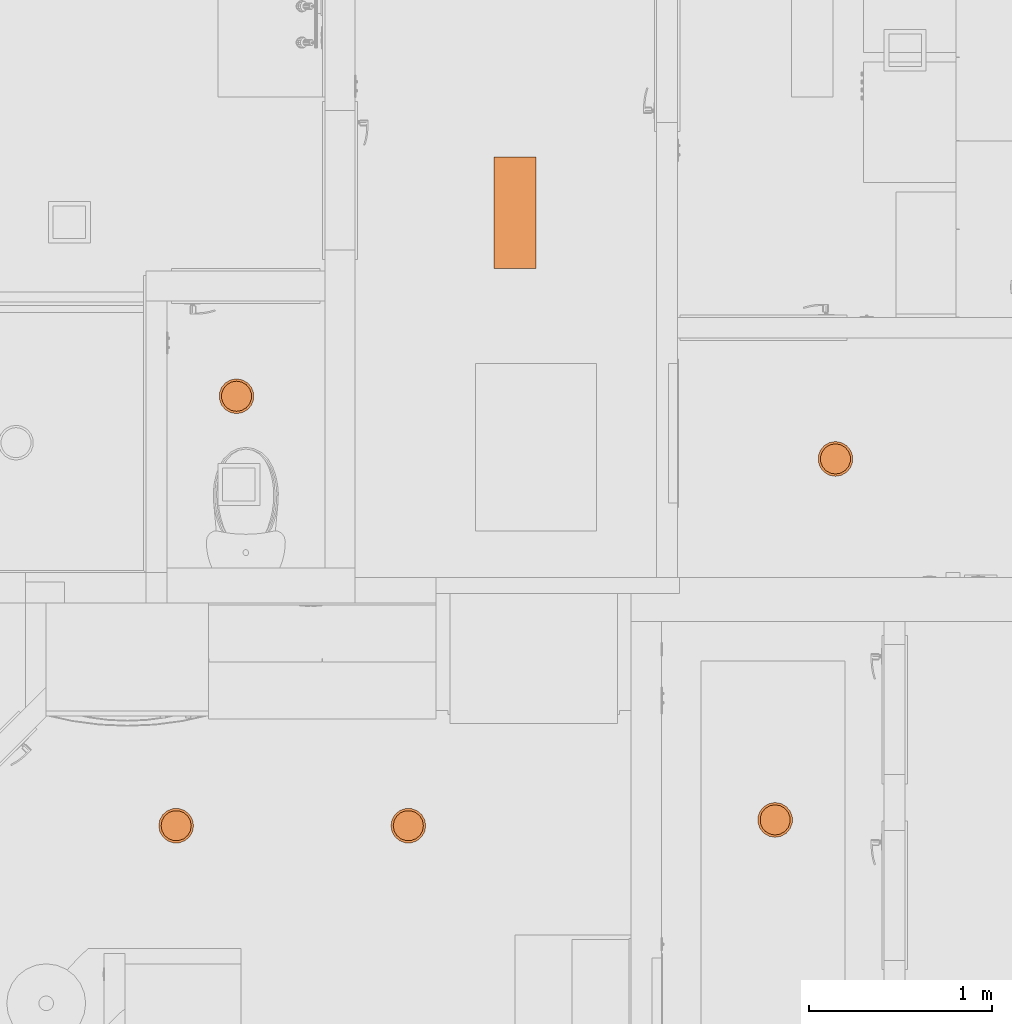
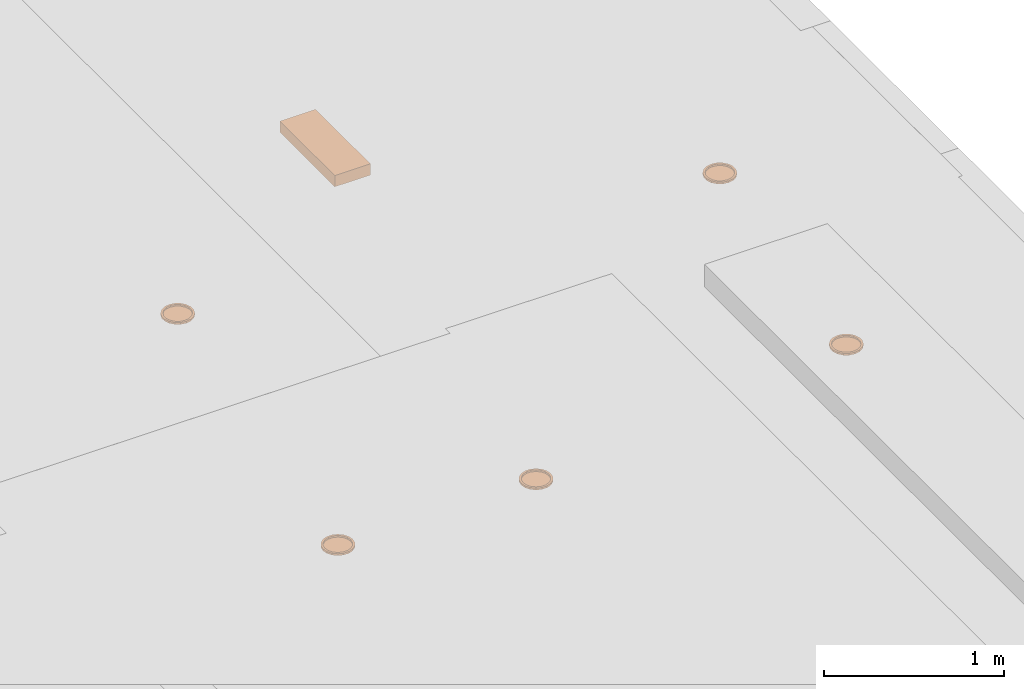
# One storey, part 75 of 103: 6 proxies.
"""IFC2X3 building model written with IfcOpenShell, lengths in inches."""

from ifc_helpers import new_model, entity, si_unit, converted_unit, derived_unit, money_unit, direction, frame, origin_with_axes, place, context, subcontext, project, spatial, open_shell, faceted_brep, surface_model, source, transform, mapped, type_object, element, save


model = new_model("IFC2X3")

# Units and contexts
model_context = context("Model", 3, precision=0.00039370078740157, world=origin_with_axes(), true_north=direction((0.0, 1.0)))
plan_context = context("Plan", 3, precision=0.00039370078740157, world=origin_with_axes(), true_north=direction((0.0, 1.0)))
body_context = subcontext(model_context, "Body", "Model", "MODEL_VIEW")
ifc_project = project(units=[converted_unit("LENGTHUNIT", "INCH", entity("IfcPositiveLengthMeasure", 0.0254), si_unit("LENGTHUNIT", "METRE"), dimensions=[1, 0, 0, 0, 0, 0, 0]), converted_unit("AREAUNIT", "SQUARE_FOOT", entity("IfcPositiveLengthMeasure", 0.09290304), si_unit("AREAUNIT", "SQUARE_METRE"), dimensions=[2, 0, 0, 0, 0, 0, 0]), si_unit("PLANEANGLEUNIT", "RADIAN"), si_unit("SOLIDANGLEUNIT", "STERADIAN"), money_unit("USD"), converted_unit("TIMEUNIT", "Year", entity("IfcTimeMeasure", 31557600.0), si_unit("TIMEUNIT", "SECOND"), dimensions=[0, 0, 1, 0, 0, 0, 0]), si_unit("MASSUNIT", "GRAM", prefix="KILO"), si_unit("THERMODYNAMICTEMPERATUREUNIT", "DEGREE_CELSIUS"), si_unit("LUMINOUSINTENSITYUNIT", "LUMEN"), si_unit("ENERGYUNIT", "JOULE", prefix="MEGA"), derived_unit("SPECIFICHEATCAPACITYUNIT", [(si_unit("ENERGYUNIT", "JOULE"), 1), (si_unit("MASSUNIT", "GRAM", prefix="KILO"), -1), (si_unit("THERMODYNAMICTEMPERATUREUNIT", "KELVIN"), -1)])], contexts=[model_context, plan_context])

# Site, building, storey
site_placement = place(None, origin_with_axes())
site = spatial("IfcSite", under=ifc_project, at=site_placement, Name="Site", CompositionType="ELEMENT")
building_placement = place(site_placement, origin_with_axes())
building = spatial("IfcBuilding", under=site, at=building_placement, Name="Building", CompositionType="ELEMENT")
storey_placement = place(building_placement, frame((0.0, 0.0, 127.9999999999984), z_axis=(0.0, 0.0, 1.0), x_axis=(1.0, 0.0, 0.0)))
storey = spatial("IfcBuildingStorey", under=building, at=storey_placement, Name="Second Floor", CompositionType="ELEMENT", Elevation=128.0)

# Proxies
building_element_proxy_type_1 = type_object("IfcBuildingElementProxyType", Name="Recessed Spot", PredefinedType="NOTDEFINED")
shared_shape_1 = source(origin_with_axes(), body_context, "Body", "SurfaceModel", [
    faceted_brep([(3.749999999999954, 0.0, -0.4999999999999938), (3.523847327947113, 1.282575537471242, -0.4999999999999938), (3.523847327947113, 1.282575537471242, 0.0), (3.749999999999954, 0.0, 0.0), (3.523847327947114, -1.282575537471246, -0.4999999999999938), (2.872666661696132, -2.410453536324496, -0.4999999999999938), (1.874999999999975, -3.247595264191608, -0.4999999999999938), (0.6511806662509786, -3.693029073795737, -0.4999999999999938), (-0.6511806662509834, -3.693029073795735, -0.4999999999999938), (-1.87499999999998, -3.247595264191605, -0.4999999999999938), (-2.872666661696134, -2.410453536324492, -0.4999999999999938), (-3.523847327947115, -1.282575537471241, -0.4999999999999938), (-3.749999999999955, 0.0, -0.4999999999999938), (-3.523847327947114, 1.282575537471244, -0.4999999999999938), (-2.872666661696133, 2.410453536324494, -0.4999999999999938), (-1.874999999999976, 3.247595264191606, -0.4999999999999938), (-0.6511806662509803, 3.693029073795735, -0.4999999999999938), (0.6511806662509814, 3.693029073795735, -0.4999999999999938), (1.874999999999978, 3.247595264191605, -0.4999999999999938), (2.872666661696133, 2.410453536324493, -0.4999999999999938), (3.24999999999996, 0.0, -0.4999999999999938), (3.054001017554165, 1.11156546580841, -0.4999999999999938), (2.489644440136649, 2.089059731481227, -0.4999999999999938), (1.62499999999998, 2.814582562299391, -0.4999999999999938), (0.5643565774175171, 3.200625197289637, -0.4999999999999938), (-0.5643565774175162, 3.200625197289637, -0.4999999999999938), (-1.62499999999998, 2.814582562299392, -0.4999999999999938), (-2.489644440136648, 2.089059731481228, -0.4999999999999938), (-3.054001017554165, 1.111565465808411, -0.4999999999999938), (-3.24999999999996, 0.0, -0.4999999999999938), (-3.054001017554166, -1.111565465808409, -0.4999999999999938), (-2.48964444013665, -2.089059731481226, -0.4999999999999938), (-1.624999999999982, -2.814582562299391, -0.4999999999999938), (-0.5643565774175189, -3.200625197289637, -0.4999999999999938), (0.5643565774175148, -3.200625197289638, -0.4999999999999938), (1.624999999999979, -2.814582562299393, -0.4999999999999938), (2.489644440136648, -2.08905973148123, -0.4999999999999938), (3.054001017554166, -1.111565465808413, -0.4999999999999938), (2.872666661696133, 2.410453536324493, 0.0), (1.874999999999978, 3.247595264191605, 0.0), (0.6511806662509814, 3.693029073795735, 0.0), (-0.6511806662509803, 3.693029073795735, 0.0), (-1.874999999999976, 3.247595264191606, 0.0), (-2.872666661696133, 2.410453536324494, 0.0), (-3.523847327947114, 1.282575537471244, 0.0), (-3.749999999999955, 0.0, 0.0), (-3.523847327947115, -1.282575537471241, 0.0), (-2.872666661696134, -2.410453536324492, 0.0), (-1.87499999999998, -3.247595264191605, 0.0), (-0.6511806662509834, -3.693029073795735, 0.0), (0.6511806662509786, -3.693029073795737, 0.0), (1.874999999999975, -3.247595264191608, 0.0), (2.872666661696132, -2.410453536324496, 0.0), (3.523847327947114, -1.282575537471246, 0.0), (3.24999999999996, 0.0, 0.0), (3.054001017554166, -1.111565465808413, 0.0), (2.489644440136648, -2.08905973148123, 0.0), (1.624999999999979, -2.814582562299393, 0.0), (0.5643565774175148, -3.200625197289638, 0.0), (-0.5643565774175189, -3.200625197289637, 0.0), (-1.624999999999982, -2.814582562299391, 0.0), (-2.48964444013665, -2.089059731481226, 0.0), (-3.054001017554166, -1.111565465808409, 0.0), (-3.24999999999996, 0.0, 0.0), (-3.054001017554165, 1.111565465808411, 0.0), (-2.489644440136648, 2.089059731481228, 0.0), (-1.62499999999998, 2.814582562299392, 0.0), (-0.5643565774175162, 3.200625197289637, 0.0), (0.5643565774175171, 3.200625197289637, 0.0), (1.62499999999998, 2.814582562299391, 0.0), (2.489644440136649, 2.089059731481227, 0.0), (3.054001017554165, 1.11156546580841, 0.0)], [[[0, 1, 2, 3]], [[0, 4, 5, 6, 7, 8, 9, 10, 11, 12, 13, 14, 15, 16, 17, 18, 19, 1], [20, 21, 22, 23, 24, 25, 26, 27, 28, 29, 30, 31, 32, 33, 34, 35, 36, 37]], [[1, 19, 38, 2]], [[3, 2, 38, 39, 40, 41, 42, 43, 44, 45, 46, 47, 48, 49, 50, 51, 52, 53], [54, 55, 56, 57, 58, 59, 60, 61, 62, 63, 64, 65, 66, 67, 68, 69, 70, 71]], [[4, 0, 3, 53]], [[5, 4, 53, 52]], [[6, 5, 52, 51]], [[7, 6, 51, 50]], [[8, 7, 50, 49]], [[9, 8, 49, 48]], [[10, 9, 48, 47]], [[11, 10, 47, 46]], [[12, 11, 46, 45]], [[13, 12, 45, 44]], [[14, 13, 44, 43]], [[15, 14, 43, 42]], [[16, 15, 42, 41]], [[17, 16, 41, 40]], [[18, 17, 40, 39]], [[19, 18, 39, 38]], [[21, 20, 54, 71]], [[22, 21, 71, 70]], [[23, 22, 70, 69]], [[24, 23, 69, 68]], [[25, 24, 68, 67]], [[26, 25, 67, 66]], [[27, 26, 66, 65]], [[28, 27, 65, 64]], [[29, 28, 64, 63]], [[30, 29, 63, 62]], [[31, 30, 62, 61]], [[32, 31, 61, 60]], [[33, 32, 60, 59]], [[34, 33, 59, 58]], [[35, 34, 58, 57]], [[36, 35, 57, 56]], [[37, 36, 56, 55]], [[20, 37, 55, 54]]]),
    surface_model("IfcShellBasedSurfaceModel", [(3.24999999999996, 0.0, -0.4460629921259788), (3.054001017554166, -1.111565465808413, -0.4460629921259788), (2.489644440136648, -2.08905973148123, -0.4460629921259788), (1.624999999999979, -2.814582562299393, -0.4460629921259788), (0.5643565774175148, -3.200625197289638, -0.4460629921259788), (-0.5643565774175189, -3.200625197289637, -0.4460629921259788), (-1.624999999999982, -2.814582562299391, -0.4460629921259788), (-2.48964444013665, -2.089059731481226, -0.4460629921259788), (-3.054001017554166, -1.111565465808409, -0.4460629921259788), (-3.24999999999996, 0.0, -0.4460629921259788), (-3.054001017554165, 1.111565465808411, -0.4460629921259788), (-2.489644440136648, 2.089059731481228, -0.4460629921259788), (-1.62499999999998, 2.814582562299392, -0.4460629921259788), (-0.5643565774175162, 3.200625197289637, -0.4460629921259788), (0.5643565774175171, 3.200625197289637, -0.4460629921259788), (1.62499999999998, 2.814582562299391, -0.4460629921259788), (2.489644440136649, 2.089059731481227, -0.4460629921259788), (3.054001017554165, 1.11156546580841, -0.4460629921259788)], [open_shell([[[0, 1, 2, 3, 4, 5, 6, 7, 8, 9, 10, 11, 12, 13, 14, 15, 16, 17]]])]),
])
for number, where, z_axis, x_axis, name in (
    (1, (198.9999999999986, 426.499999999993, 119.9999999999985), (0.0, 0.0, 1.0), (-9.406550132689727e-08, 0.9999999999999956, 0.0), "L-03"),
    (2, (185.9999999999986, 348.7499999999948, 125.9999999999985), (0.0, 0.0, 1.0), (-9.406550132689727e-08, 0.9999999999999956, 0.0), "L-03"),
    (3, (69.99999455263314, 440.00090748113, 119.4999999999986), (0.0, 0.0, 1.0), (-9.406550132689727e-08, 0.9999999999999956, 0.0), "L-03"),
):
    element("IfcBuildingElementProxy", number, at=place(storey_placement, frame(where, z_axis=z_axis, x_axis=x_axis)), inside=storey, type_object=building_element_proxy_type_1, Name=name, context=body_context, shape_type="MappedRepresentation", body=[
        mapped(shared_shape_1, transform((0.0, 0.0, 0.0))),
    ])
shared_shape_2 = source(origin_with_axes(), body_context, "Body", "SurfaceModel", [
    faceted_brep([(3.749999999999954, 0.0, -0.4999999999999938), (3.523847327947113, 1.282575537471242, -0.4999999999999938), (3.523847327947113, 1.282575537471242, 0.0), (3.749999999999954, 0.0, 0.0), (3.523847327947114, -1.282575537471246, -0.4999999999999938), (2.872666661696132, -2.410453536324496, -0.4999999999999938), (1.874999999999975, -3.247595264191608, -0.4999999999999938), (0.6511806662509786, -3.693029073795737, -0.4999999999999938), (-0.6511806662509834, -3.693029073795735, -0.4999999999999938), (-1.87499999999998, -3.247595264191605, -0.4999999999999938), (-2.872666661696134, -2.410453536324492, -0.4999999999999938), (-3.523847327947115, -1.282575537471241, -0.4999999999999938), (-3.749999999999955, 0.0, -0.4999999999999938), (-3.523847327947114, 1.282575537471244, -0.4999999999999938), (-2.872666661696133, 2.410453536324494, -0.4999999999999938), (-1.874999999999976, 3.247595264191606, -0.4999999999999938), (-0.6511806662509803, 3.693029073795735, -0.4999999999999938), (0.6511806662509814, 3.693029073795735, -0.4999999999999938), (1.874999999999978, 3.247595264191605, -0.4999999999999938), (2.872666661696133, 2.410453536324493, -0.4999999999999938), (3.24999999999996, 0.0, -0.4999999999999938), (3.054001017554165, 1.11156546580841, -0.4999999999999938), (2.489644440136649, 2.089059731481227, -0.4999999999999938), (1.62499999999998, 2.814582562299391, -0.4999999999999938), (0.5643565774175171, 3.200625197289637, -0.4999999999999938), (-0.5643565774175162, 3.200625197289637, -0.4999999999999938), (-1.62499999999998, 2.814582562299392, -0.4999999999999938), (-2.489644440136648, 2.089059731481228, -0.4999999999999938), (-3.054001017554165, 1.111565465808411, -0.4999999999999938), (-3.24999999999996, 0.0, -0.4999999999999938), (-3.054001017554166, -1.111565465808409, -0.4999999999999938), (-2.48964444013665, -2.089059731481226, -0.4999999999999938), (-1.624999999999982, -2.814582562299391, -0.4999999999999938), (-0.5643565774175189, -3.200625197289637, -0.4999999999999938), (0.5643565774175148, -3.200625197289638, -0.4999999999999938), (1.624999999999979, -2.814582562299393, -0.4999999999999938), (2.489644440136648, -2.08905973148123, -0.4999999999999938), (3.054001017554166, -1.111565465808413, -0.4999999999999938), (2.872666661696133, 2.410453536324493, 0.0), (1.874999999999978, 3.247595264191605, 0.0), (0.6511806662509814, 3.693029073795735, 0.0), (-0.6511806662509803, 3.693029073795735, 0.0), (-1.874999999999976, 3.247595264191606, 0.0), (-2.872666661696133, 2.410453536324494, 0.0), (-3.523847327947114, 1.282575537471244, 0.0), (-3.749999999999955, 0.0, 0.0), (-3.523847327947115, -1.282575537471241, 0.0), (-2.872666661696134, -2.410453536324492, 0.0), (-1.87499999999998, -3.247595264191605, 0.0), (-0.6511806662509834, -3.693029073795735, 0.0), (0.6511806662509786, -3.693029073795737, 0.0), (1.874999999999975, -3.247595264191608, 0.0), (2.872666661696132, -2.410453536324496, 0.0), (3.523847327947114, -1.282575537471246, 0.0), (3.24999999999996, 0.0, 0.0), (3.054001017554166, -1.111565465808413, 0.0), (2.489644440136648, -2.08905973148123, 0.0), (1.624999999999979, -2.814582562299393, 0.0), (0.5643565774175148, -3.200625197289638, 0.0), (-0.5643565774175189, -3.200625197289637, 0.0), (-1.624999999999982, -2.814582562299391, 0.0), (-2.48964444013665, -2.089059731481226, 0.0), (-3.054001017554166, -1.111565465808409, 0.0), (-3.24999999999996, 0.0, 0.0), (-3.054001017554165, 1.111565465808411, 0.0), (-2.489644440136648, 2.089059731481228, 0.0), (-1.62499999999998, 2.814582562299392, 0.0), (-0.5643565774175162, 3.200625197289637, 0.0), (0.5643565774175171, 3.200625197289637, 0.0), (1.62499999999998, 2.814582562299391, 0.0), (2.489644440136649, 2.089059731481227, 0.0), (3.054001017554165, 1.11156546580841, 0.0)], [[[0, 1, 2, 3]], [[0, 4, 5, 6, 7, 8, 9, 10, 11, 12, 13, 14, 15, 16, 17, 18, 19, 1], [20, 21, 22, 23, 24, 25, 26, 27, 28, 29, 30, 31, 32, 33, 34, 35, 36, 37]], [[1, 19, 38, 2]], [[3, 2, 38, 39, 40, 41, 42, 43, 44, 45, 46, 47, 48, 49, 50, 51, 52, 53], [54, 55, 56, 57, 58, 59, 60, 61, 62, 63, 64, 65, 66, 67, 68, 69, 70, 71]], [[4, 0, 3, 53]], [[5, 4, 53, 52]], [[6, 5, 52, 51]], [[7, 6, 51, 50]], [[8, 7, 50, 49]], [[9, 8, 49, 48]], [[10, 9, 48, 47]], [[11, 10, 47, 46]], [[12, 11, 46, 45]], [[13, 12, 45, 44]], [[14, 13, 44, 43]], [[15, 14, 43, 42]], [[16, 15, 42, 41]], [[17, 16, 41, 40]], [[18, 17, 40, 39]], [[19, 18, 39, 38]], [[21, 20, 54, 71]], [[22, 21, 71, 70]], [[23, 22, 70, 69]], [[24, 23, 69, 68]], [[25, 24, 68, 67]], [[26, 25, 67, 66]], [[27, 26, 66, 65]], [[28, 27, 65, 64]], [[29, 28, 64, 63]], [[30, 29, 63, 62]], [[31, 30, 62, 61]], [[32, 31, 61, 60]], [[33, 32, 60, 59]], [[34, 33, 59, 58]], [[35, 34, 58, 57]], [[36, 35, 57, 56]], [[37, 36, 56, 55]], [[20, 37, 55, 54]]]),
    surface_model("IfcShellBasedSurfaceModel", [(3.24999999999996, 0.0, -0.4460629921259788), (3.054001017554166, -1.111565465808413, -0.4460629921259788), (2.489644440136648, -2.08905973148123, -0.4460629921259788), (1.624999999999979, -2.814582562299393, -0.4460629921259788), (0.5643565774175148, -3.200625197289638, -0.4460629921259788), (-0.5643565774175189, -3.200625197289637, -0.4460629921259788), (-1.624999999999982, -2.814582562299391, -0.4460629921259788), (-2.48964444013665, -2.089059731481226, -0.4460629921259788), (-3.054001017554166, -1.111565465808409, -0.4460629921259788), (-3.24999999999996, 0.0, -0.4460629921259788), (-3.054001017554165, 1.111565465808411, -0.4460629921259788), (-2.489644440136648, 2.089059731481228, -0.4460629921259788), (-1.62499999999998, 2.814582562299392, -0.4460629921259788), (-0.5643565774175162, 3.200625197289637, -0.4460629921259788), (0.5643565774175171, 3.200625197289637, -0.4460629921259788), (1.62499999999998, 2.814582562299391, -0.4460629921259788), (2.489644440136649, 2.089059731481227, -0.4460629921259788), (3.054001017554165, 1.11156546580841, -0.4460629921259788)], [open_shell([[[0, 1, 2, 3, 4, 5, 6, 7, 8, 9, 10, 11, 12, 13, 14, 15, 16, 17]]])]),
])
for number, where, z_axis, x_axis, name in (
    (4, (56.99956986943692, 347.5014242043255, 118.4999999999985), (0.0, 0.0, 1.0), (0.9999999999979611, 2.01938114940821e-06, 0.0), "L-03"),
    (5, (106.9995698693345, 347.5015251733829, 118.4999999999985), (0.0, 0.0, 1.0), (0.9999999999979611, 2.01938114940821e-06, 0.0), "L-03"),
):
    element("IfcBuildingElementProxy", number, at=place(storey_placement, frame(where, z_axis=z_axis, x_axis=x_axis)), inside=storey, type_object=building_element_proxy_type_1, Name=name, context=body_context, shape_type="MappedRepresentation", body=[
        mapped(shared_shape_2, transform((0.0, 0.0, 0.0))),
    ])
building_element_proxy_type_2 = type_object("IfcBuildingElementProxyType", Name="Fluorescent Lamp", PredefinedType="NOTDEFINED")
shared_shape_3 = source(origin_with_axes(), body_context, "Body", "SurfaceModel", [
    faceted_brep([(0.0, 0.0, -2.999999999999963), (23.9999999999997, 0.0, -2.999999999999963), (23.9999999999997, 0.0, 0.0), (0.0, 0.0, 0.0), (0.0, 8.99999999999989, -2.999999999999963), (23.9999999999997, 8.99999999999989, -2.999999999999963), (1.57480314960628, 1.57480314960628, -2.999999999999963), (22.42519685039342, 1.57480314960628, -2.999999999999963), (22.42519685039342, 7.425196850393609, -2.999999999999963), (1.57480314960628, 7.425196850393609, -2.999999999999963), (23.9999999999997, 8.99999999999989, 0.0), (0.0, 8.99999999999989, 0.0), (1.57480314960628, 1.57480314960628, 0.0), (1.57480314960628, 7.425196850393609, 0.0), (22.42519685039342, 7.425196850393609, 0.0), (22.42519685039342, 1.57480314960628, 0.0)], [[[0, 1, 2, 3]], [[0, 4, 5, 1], [6, 7, 8, 9]], [[1, 5, 10, 2]], [[3, 2, 10, 11], [12, 13, 14, 15]], [[4, 0, 3, 11]], [[5, 4, 11, 10]], [[7, 6, 12, 15]], [[8, 7, 15, 14]], [[9, 8, 14, 13]], [[6, 9, 13, 12]]]),
    faceted_brep([(1.57480314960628, 1.57480314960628, -0.3307086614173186), (22.42519685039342, 1.57480314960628, -0.3307086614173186), (22.42519685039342, 1.57480314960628, 0.0), (1.57480314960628, 1.57480314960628, 0.0), (1.57480314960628, 7.425196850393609, -0.3307086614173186), (22.42519685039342, 7.425196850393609, -0.3307086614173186), (22.42519685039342, 7.425196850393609, 0.0), (1.57480314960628, 7.425196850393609, 0.0)], [[[0, 1, 2, 3]], [[0, 4, 5, 1]], [[1, 5, 6, 2]], [[3, 2, 6, 7]], [[4, 0, 3, 7]], [[5, 4, 7, 6]]]),
    surface_model("IfcShellBasedSurfaceModel", [(22.38582677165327, 1.614173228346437, -2.999999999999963), (1.574803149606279, 1.614173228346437, -2.999999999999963), (1.574803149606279, 7.385826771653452, -2.999999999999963), (22.38582677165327, 7.385826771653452, -2.999999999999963)], [open_shell([[[0, 1, 2, 3]]])]),
    faceted_brep([(1.574803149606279, 1.57480314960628, -2.999999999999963), (22.42519685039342, 1.57480314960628, -2.999999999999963), (22.42519685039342, 1.57480314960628, -1.425196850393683), (1.574803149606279, 1.57480314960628, -1.425196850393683), (1.574803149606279, 7.425196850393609, -2.999999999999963), (22.42519685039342, 7.425196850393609, -2.999999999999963), (1.614173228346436, 1.614173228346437, -2.999999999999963), (22.38582677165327, 1.614173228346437, -2.999999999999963), (22.38582677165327, 7.385826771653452, -2.999999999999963), (1.614173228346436, 7.385826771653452, -2.999999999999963), (22.42519685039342, 7.425196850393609, -1.425196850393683), (1.574803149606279, 7.425196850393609, -1.425196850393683), (1.614173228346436, 1.614173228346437, -1.425196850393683), (1.614173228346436, 7.385826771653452, -1.425196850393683), (22.38582677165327, 7.385826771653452, -1.425196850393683), (22.38582677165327, 1.614173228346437, -1.425196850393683)], [[[0, 1, 2, 3]], [[0, 4, 5, 1], [6, 7, 8, 9]], [[1, 5, 10, 2]], [[3, 2, 10, 11], [12, 13, 14, 15]], [[4, 0, 3, 11]], [[5, 4, 11, 10]], [[7, 6, 12, 15]], [[8, 7, 15, 14]], [[9, 8, 14, 13]], [[6, 9, 13, 12]]]),
    faceted_brep([(1.57480314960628, 3.037401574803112, -1.590551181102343), (1.57480314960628, 3.454984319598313, -1.417582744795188), (22.42519685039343, 3.454984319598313, -1.417582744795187), (22.42519685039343, 3.037401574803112, -1.590551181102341), (1.57480314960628, 2.619818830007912, -1.417582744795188), (1.57480314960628, 2.446850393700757, -0.9999999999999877), (1.57480314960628, 2.619818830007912, -0.5824172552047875), (1.57480314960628, 3.037401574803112, -0.4094488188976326), (1.57480314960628, 3.454984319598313, -0.5824172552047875), (1.57480314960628, 3.627952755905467, -0.9999999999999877), (1.57480314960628, 3.037401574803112, -1.511811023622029), (1.57480314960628, 3.399306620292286, -1.361905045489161), (1.57480314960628, 3.549212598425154, -0.9999999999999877), (1.57480314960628, 3.399306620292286, -0.6380949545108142), (1.57480314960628, 3.037401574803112, -0.4881889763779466), (1.57480314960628, 2.675496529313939, -0.6380949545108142), (1.57480314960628, 2.525590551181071, -0.9999999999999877), (1.57480314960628, 2.675496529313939, -1.361905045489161), (22.42519685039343, 3.627952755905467, -0.9999999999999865), (22.42519685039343, 3.454984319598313, -0.5824172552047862), (22.42519685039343, 3.037401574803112, -0.4094488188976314), (22.42519685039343, 2.619818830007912, -0.5824172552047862), (22.42519685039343, 2.446850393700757, -0.9999999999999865), (22.42519685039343, 2.619818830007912, -1.417582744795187), (22.42519685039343, 3.037401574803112, -1.511811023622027), (22.42519685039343, 2.675496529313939, -1.36190504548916), (22.42519685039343, 2.525590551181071, -0.9999999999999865), (22.42519685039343, 2.675496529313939, -0.6380949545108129), (22.42519685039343, 3.037401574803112, -0.4881889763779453), (22.42519685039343, 3.399306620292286, -0.6380949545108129), (22.42519685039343, 3.549212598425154, -0.9999999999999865), (22.42519685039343, 3.399306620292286, -1.36190504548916)], [[[0, 1, 2, 3]], [[0, 4, 5, 6, 7, 8, 9, 1], [10, 11, 12, 13, 14, 15, 16, 17]], [[1, 9, 18, 2]], [[3, 2, 18, 19, 20, 21, 22, 23], [24, 25, 26, 27, 28, 29, 30, 31]], [[4, 0, 3, 23]], [[5, 4, 23, 22]], [[6, 5, 22, 21]], [[7, 6, 21, 20]], [[8, 7, 20, 19]], [[9, 8, 19, 18]], [[11, 10, 24, 31]], [[12, 11, 31, 30]], [[13, 12, 30, 29]], [[14, 13, 29, 28]], [[15, 14, 28, 27]], [[16, 15, 27, 26]], [[17, 16, 26, 25]], [[10, 17, 25, 24]]]),
    faceted_brep([(1.57480314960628, 4.499999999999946, -1.590551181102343), (1.57480314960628, 4.917582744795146, -1.417582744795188), (22.42519685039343, 4.917582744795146, -1.417582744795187), (22.42519685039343, 4.499999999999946, -1.590551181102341), (1.57480314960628, 4.082417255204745, -1.417582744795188), (1.57480314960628, 3.90944881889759, -0.9999999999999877), (1.57480314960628, 4.082417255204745, -0.5824172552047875), (1.57480314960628, 4.499999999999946, -0.4094488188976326), (1.57480314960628, 4.917582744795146, -0.5824172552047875), (1.57480314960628, 5.090551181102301, -0.9999999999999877), (1.57480314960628, 4.499999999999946, -1.511811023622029), (1.57480314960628, 4.861905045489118, -1.361905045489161), (1.57480314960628, 5.011811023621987, -0.9999999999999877), (1.57480314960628, 4.861905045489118, -0.6380949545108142), (1.57480314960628, 4.499999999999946, -0.4881889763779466), (1.57480314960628, 4.138094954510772, -0.6380949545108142), (1.57480314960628, 3.988188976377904, -0.9999999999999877), (1.57480314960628, 4.138094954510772, -1.361905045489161), (22.42519685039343, 5.090551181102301, -0.9999999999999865), (22.42519685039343, 4.917582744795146, -0.5824172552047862), (22.42519685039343, 4.499999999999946, -0.4094488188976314), (22.42519685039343, 4.082417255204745, -0.5824172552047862), (22.42519685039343, 3.90944881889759, -0.9999999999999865), (22.42519685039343, 4.082417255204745, -1.417582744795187), (22.42519685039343, 4.499999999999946, -1.511811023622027), (22.42519685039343, 4.138094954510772, -1.36190504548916), (22.42519685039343, 3.988188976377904, -0.9999999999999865), (22.42519685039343, 4.138094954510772, -0.6380949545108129), (22.42519685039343, 4.499999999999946, -0.4881889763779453), (22.42519685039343, 4.861905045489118, -0.6380949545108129), (22.42519685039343, 5.011811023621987, -0.9999999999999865), (22.42519685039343, 4.861905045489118, -1.36190504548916)], [[[0, 1, 2, 3]], [[0, 4, 5, 6, 7, 8, 9, 1], [10, 11, 12, 13, 14, 15, 16, 17]], [[1, 9, 18, 2]], [[3, 2, 18, 19, 20, 21, 22, 23], [24, 25, 26, 27, 28, 29, 30, 31]], [[4, 0, 3, 23]], [[5, 4, 23, 22]], [[6, 5, 22, 21]], [[7, 6, 21, 20]], [[8, 7, 20, 19]], [[9, 8, 19, 18]], [[11, 10, 24, 31]], [[12, 11, 31, 30]], [[13, 12, 30, 29]], [[14, 13, 29, 28]], [[15, 14, 28, 27]], [[16, 15, 27, 26]], [[17, 16, 26, 25]], [[10, 17, 25, 24]]]),
    faceted_brep([(1.57480314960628, 5.962598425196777, -1.590551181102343), (1.57480314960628, 6.380181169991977, -1.417582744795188), (22.42519685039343, 6.380181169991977, -1.417582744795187), (22.42519685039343, 5.962598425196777, -1.590551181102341), (1.57480314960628, 5.545015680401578, -1.417582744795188), (1.57480314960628, 5.372047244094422, -0.9999999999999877), (1.57480314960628, 5.545015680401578, -0.5824172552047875), (1.57480314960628, 5.962598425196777, -0.4094488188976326), (1.57480314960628, 6.380181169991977, -0.5824172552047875), (1.57480314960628, 6.553149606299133, -0.9999999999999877), (1.57480314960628, 5.962598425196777, -1.511811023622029), (1.57480314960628, 6.324503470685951, -1.361905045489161), (1.57480314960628, 6.474409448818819, -0.9999999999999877), (1.57480314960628, 6.324503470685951, -0.6380949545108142), (1.57480314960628, 5.962598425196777, -0.4881889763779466), (1.57480314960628, 5.600693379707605, -0.6380949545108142), (1.57480314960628, 5.450787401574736, -0.9999999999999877), (1.57480314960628, 5.600693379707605, -1.361905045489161), (22.42519685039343, 6.553149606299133, -0.9999999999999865), (22.42519685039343, 6.380181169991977, -0.5824172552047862), (22.42519685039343, 5.962598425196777, -0.4094488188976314), (22.42519685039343, 5.545015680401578, -0.5824172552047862), (22.42519685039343, 5.372047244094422, -0.9999999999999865), (22.42519685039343, 5.545015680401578, -1.417582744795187), (22.42519685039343, 5.962598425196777, -1.511811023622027), (22.42519685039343, 5.600693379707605, -1.36190504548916), (22.42519685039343, 5.450787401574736, -0.9999999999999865), (22.42519685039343, 5.600693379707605, -0.6380949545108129), (22.42519685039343, 5.962598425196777, -0.4881889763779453), (22.42519685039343, 6.324503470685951, -0.6380949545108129), (22.42519685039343, 6.474409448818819, -0.9999999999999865), (22.42519685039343, 6.324503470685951, -1.36190504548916)], [[[0, 1, 2, 3]], [[0, 4, 5, 6, 7, 8, 9, 1], [10, 11, 12, 13, 14, 15, 16, 17]], [[1, 9, 18, 2]], [[3, 2, 18, 19, 20, 21, 22, 23], [24, 25, 26, 27, 28, 29, 30, 31]], [[4, 0, 3, 23]], [[5, 4, 23, 22]], [[6, 5, 22, 21]], [[7, 6, 21, 20]], [[8, 7, 20, 19]], [[9, 8, 19, 18]], [[11, 10, 24, 31]], [[12, 11, 31, 30]], [[13, 12, 30, 29]], [[14, 13, 29, 28]], [[15, 14, 28, 27]], [[16, 15, 27, 26]], [[17, 16, 26, 25]], [[10, 17, 25, 24]]]),
])
proxy_placement = place(storey_placement, frame((125.5000035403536, 491.5000000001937, 119.9999999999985), z_axis=(0.0, 0.0, 1.0), x_axis=(0.0, -1.0, 0.0)))
element("IfcBuildingElementProxy", 6, at=proxy_placement, inside=storey, type_object=building_element_proxy_type_2, Name="L-15", context=body_context, shape_type="MappedRepresentation", body=[
    mapped(shared_shape_3, transform((0.0, 0.0, 0.0))),
])

save(model, "model.ifc")
